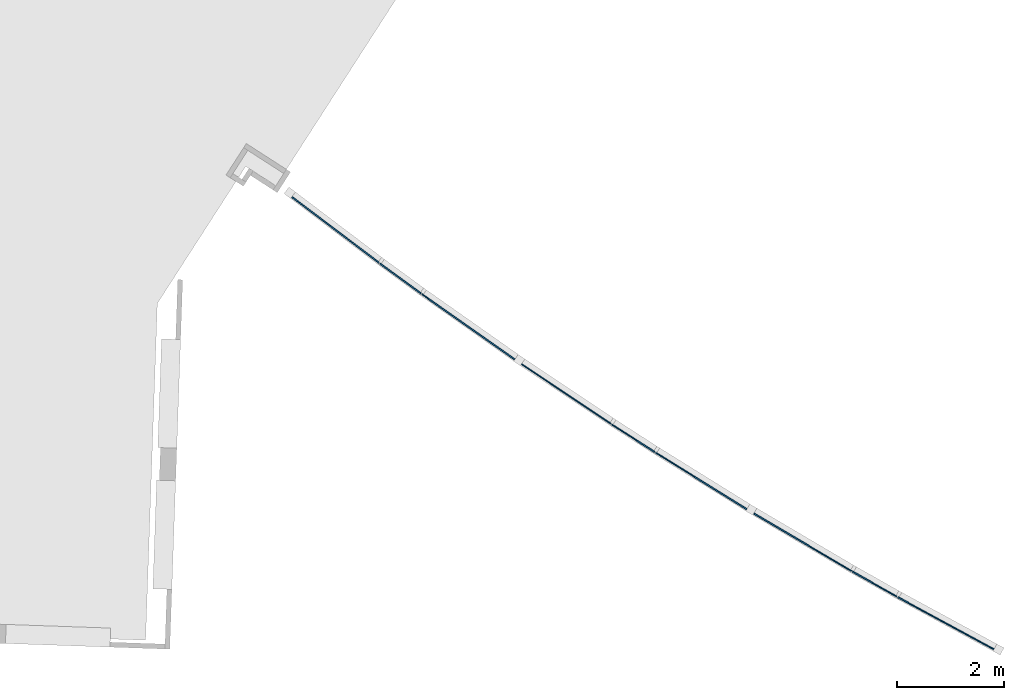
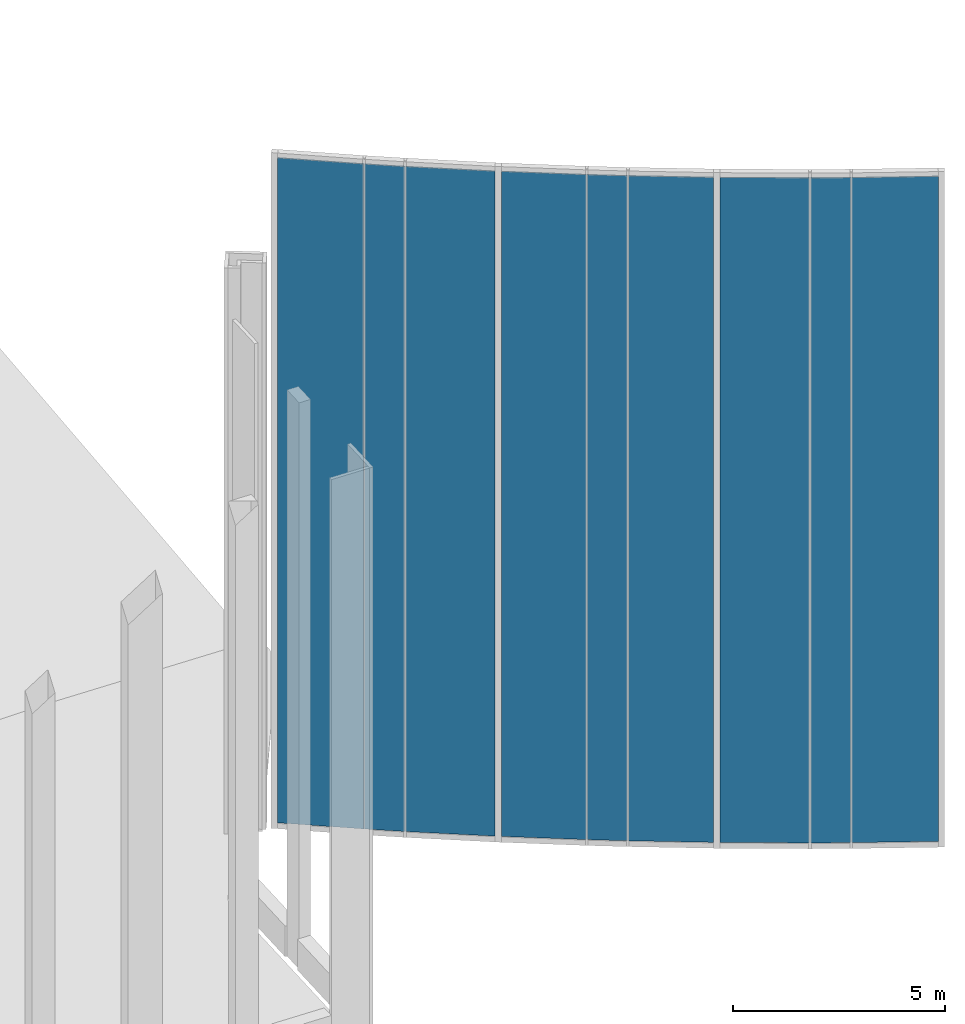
# One storey, part 7 of 17: 9 plates, 1 element without a shape of its own.
"""IFC2X3 building model written with IfcOpenShell, lengths in feet."""

from ifc_helpers import new_model, entity, si_unit, converted_unit, derived_unit, direction, frame, frame_2d, origin, place, context, subcontext, project, spatial, rectangle, extrude, source, transform, mapped, material, type_object, type_shapes, element, aggregate, save


model = new_model("IFC2X3")

# Units and contexts
model_context = context("Model", 3, precision=0.0001, world=origin(), true_north=direction((0.999390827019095, 0.0348994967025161)))
body_context = subcontext(model_context, "Body", "Model", "MODEL_VIEW")
ifc_project = project(units=[converted_unit("LENGTHUNIT", "FOOT", entity("IfcRatioMeasure", 0.3048), si_unit("LENGTHUNIT", "METRE"), dimensions=[1, 0, 0, 0, 0, 0, 0]), converted_unit("AREAUNIT", "SQUARE FOOT", entity("IfcRatioMeasure", 0.09290304), si_unit("AREAUNIT", "SQUARE_METRE"), dimensions=[2, 0, 0, 0, 0, 0, 0]), converted_unit("VOLUMEUNIT", "CUBIC FOOT", entity("IfcRatioMeasure", 0.028316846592), si_unit("VOLUMEUNIT", "CUBIC_METRE"), dimensions=[3, 0, 0, 0, 0, 0, 0]), converted_unit("PLANEANGLEUNIT", "DEGREE", entity("IfcRatioMeasure", 0.0174532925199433), si_unit("PLANEANGLEUNIT", "RADIAN"), dimensions=[0, 0, 0, 0, 0, 0, 0]), si_unit("MASSUNIT", "GRAM", prefix="KILO"), si_unit("TIMEUNIT", "SECOND"), si_unit("FREQUENCYUNIT", "HERTZ"), si_unit("THERMODYNAMICTEMPERATUREUNIT", "DEGREE_CELSIUS"), derived_unit("THERMALTRANSMITTANCEUNIT", [(si_unit("MASSUNIT", "GRAM", prefix="KILO"), 1), (si_unit("THERMODYNAMICTEMPERATUREUNIT", "KELVIN"), -1), (si_unit("TIMEUNIT", "SECOND"), -3)]), derived_unit("VOLUMETRICFLOWRATEUNIT", [(si_unit("LENGTHUNIT", "METRE"), 3), (si_unit("TIMEUNIT", "SECOND"), -1)]), si_unit("ELECTRICCURRENTUNIT", "AMPERE"), si_unit("ELECTRICVOLTAGEUNIT", "VOLT"), si_unit("POWERUNIT", "WATT"), si_unit("FORCEUNIT", "NEWTON"), si_unit("ILLUMINANCEUNIT", "LUX"), si_unit("LUMINOUSFLUXUNIT", "LUMEN"), si_unit("LUMINOUSINTENSITYUNIT", "CANDELA"), derived_unit("USERDEFINED", [(si_unit("MASSUNIT", "GRAM", prefix="KILO"), -1), (si_unit("LENGTHUNIT", "METRE"), -2), (si_unit("TIMEUNIT", "SECOND"), 3), (si_unit("LUMINOUSFLUXUNIT", "LUMEN"), 1)]), derived_unit("LINEARVELOCITYUNIT", [(si_unit("LENGTHUNIT", "METRE"), 1), (si_unit("TIMEUNIT", "SECOND"), -1)]), si_unit("PRESSUREUNIT", "PASCAL"), derived_unit("USERDEFINED", [(si_unit("LENGTHUNIT", "METRE"), -2), (si_unit("MASSUNIT", "GRAM", prefix="KILO"), 1), (si_unit("TIMEUNIT", "SECOND"), -2)])], contexts=[model_context])

# Site, building, storey
site_placement = place(None, frame((892.518771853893, 322.38689265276, 0.00393700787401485), z_axis=(0.0, 0.0, 1.0), x_axis=(0.0348994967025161, 0.999390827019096, 0.0)))
site = spatial("IfcSite", under=ifc_project, at=site_placement, Name="Default", CompositionType="ELEMENT")
building_placement = place(site_placement, origin())
building = spatial("IfcBuilding", under=site, at=building_placement, CompositionType="ELEMENT")
storey_placement = place(building_placement, frame((0.0, 0.0, 557.0)))
storey = spatial("IfcBuildingStorey", under=building, at=storey_placement, Name="Existing Garage - 1st Level", CompositionType="ELEMENT", Elevation=557.0)

# Curtain wall, plates
curtain_wall_type = type_object("IfcCurtainWallType", Name="Curtain Wall:(Existing) Curtainwall - Blank", PredefinedType="NOTDEFINED")
curtain_wall_placement = place(storey_placement, frame((0.0, 0.0, -557.0)))
curtain_wall = element("IfcCurtainWall", 1, at=curtain_wall_placement, inside=storey, type_object=curtain_wall_type, Name="Curtain Wall:(Existing) Curtainwall - Blank", ObjectType="Curtain Wall:(Existing) Curtainwall - Blank")
ifc_material = material(Name="Glazing - Core & Shell Curtain Wall")
plate_type_1 = type_object("IfcPlateType", Name="1\" Insulated Clear Glass", PredefinedType="CURTAIN_PANEL", material=ifc_material)
shared_shape_1 = source(origin(), body_context, "Body", "SweptSolid", [
    extrude(rectangle(XDim=0.0833333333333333, YDim=6.71319995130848, at=frame_2d((0.0, 2.66453525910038e-15), x_axis=(1.0, 0.0))), frame((0.0, 0.0, 0.0), z_axis=(0.0, 0.0, 1.0), x_axis=(0.0, 1.0, 0.0)), (0.0, 0.0, 1.0), 62.8958333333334),
])
type_shapes(plate_type_1, [shared_shape_1])
plate_1_placement = place(curtain_wall_placement, frame((-165.187718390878, 244.008889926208, 557.5), z_axis=(0.0, 0.0, 1.0), x_axis=(-0.575109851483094, -0.818076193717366, 0.0)))
plate_1 = element("IfcPlate", 2, at=plate_1_placement, type_object=plate_type_1, material=ifc_material, Name="System Panel:1\" Insulated Clear Glass", ObjectType="1\" Insulated Clear Glass", context=body_context, shape_type="MappedRepresentation", body=[
    mapped(shared_shape_1, transform((0.0, 0.0, 0.0), scale=1.0)),
])
plate_type_2 = type_object("IfcPlateType", Name="1\" Insulated Clear Glass", PredefinedType="CURTAIN_PANEL", material=ifc_material)
shared_shape_2 = source(origin(), body_context, "Body", "SweptSolid", [
    extrude(rectangle(XDim=0.0833333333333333, YDim=3.14518157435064, at=frame_2d((0.0, -9.10382880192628e-15), x_axis=(1.0, 0.0))), frame((0.0, 0.0, 0.0), z_axis=(0.0, 0.0, 1.0), x_axis=(0.0, 1.0, 0.0)), (0.0, 0.0, 1.0), 62.8958333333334),
])
type_shapes(plate_type_2, [shared_shape_2])
plate_2_placement = place(curtain_wall_placement, frame((-168.029575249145, 239.918009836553, 557.5), z_axis=(0.0, 0.0, 1.0), x_axis=(-0.560770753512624, -0.827971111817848, 0.0)))
plate_2 = element("IfcPlate", 3, at=plate_2_placement, type_object=plate_type_2, material=ifc_material, Name="System Panel:1\" Insulated Clear Glass", ObjectType="1\" Insulated Clear Glass", context=body_context, shape_type="MappedRepresentation", body=[
    mapped(shared_shape_2, transform((0.0, 0.0, 0.0), scale=1.0)),
])
plate_type_3 = type_object("IfcPlateType", Name="1\" Insulated Clear Glass", PredefinedType="CURTAIN_PANEL", material=ifc_material)
shared_shape_3 = source(origin(), body_context, "Body", "SweptSolid", [
    extrude(rectangle(XDim=0.0833333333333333, YDim=6.96236532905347, at=frame_2d((0.0, 7.99360577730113e-15), x_axis=(1.0, 0.0))), frame((0.0, 0.0, 0.0), z_axis=(0.0, 0.0, 1.0), x_axis=(0.0, 1.0, 0.0)), (0.0, 0.0, 1.0), 62.8958333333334),
])
type_shapes(plate_type_3, [shared_shape_3])
plate_3_placement = place(curtain_wall_placement, frame((-170.84190711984, 235.656688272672, 557.5), z_axis=(0.0, 0.0, 1.0), x_axis=(-0.546262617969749, -0.837613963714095, 0.0)))
plate_3 = element("IfcPlate", 4, at=plate_3_placement, type_object=plate_type_3, material=ifc_material, Name="System Panel:1\" Insulated Clear Glass", ObjectType="1\" Insulated Clear Glass", context=body_context, shape_type="MappedRepresentation", body=[
    mapped(shared_shape_3, transform((0.0, 0.0, 0.0), scale=1.0)),
])
plate_type_4 = type_object("IfcPlateType", Name="1\" Insulated Clear Glass", PredefinedType="CURTAIN_PANEL", material=ifc_material)
shared_shape_4 = source(origin(), body_context, "Body", "SweptSolid", [
    extrude(rectangle(XDim=0.0833333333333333, YDim=6.5940670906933, at=frame_2d((0.0, 1.02140518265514e-14), x_axis=(1.0, 0.0))), frame((0.0, 0.0, 0.0), z_axis=(0.0, 0.0, 1.0), x_axis=(0.0, 1.0, 0.0)), (0.0, 0.0, 1.0), 62.8958333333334),
])
type_shapes(plate_type_4, [shared_shape_4])
plate_4_placement = place(curtain_wall_placement, frame((-174.747219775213, 229.515546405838, 557.5), z_axis=(0.0, 0.0, 1.0), x_axis=(-0.526385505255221, -0.85024602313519, 0.0)))
plate_4 = element("IfcPlate", 5, at=plate_4_placement, type_object=plate_type_4, material=ifc_material, Name="System Panel:1\" Insulated Clear Glass", ObjectType="1\" Insulated Clear Glass", context=body_context, shape_type="MappedRepresentation", body=[
    mapped(shared_shape_4, transform((0.0, 0.0, 0.0), scale=1.0)),
])
plate_type_5 = type_object("IfcPlateType", Name="1\" Insulated Clear Glass", PredefinedType="CURTAIN_PANEL", material=ifc_material)
shared_shape_5 = source(origin(), body_context, "Body", "SweptSolid", [
    extrude(rectangle(XDim=0.0833333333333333, YDim=3.14529756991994, at=frame_2d((0.0, 8.88178419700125e-16), x_axis=(1.0, 0.0))), frame((0.0, 0.0, 0.0), z_axis=(0.0, 0.0, 1.0), x_axis=(0.0, 1.0, 0.0)), (0.0, 0.0, 1.0), 62.8958333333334),
])
type_shapes(plate_type_5, [shared_shape_5])
plate_5_placement = place(curtain_wall_placement, frame((-177.315004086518, 225.316884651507, 557.5), z_axis=(0.0, 0.0, 1.0), x_axis=(-0.512022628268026, -0.858971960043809, 0.0)))
plate_5 = element("IfcPlate", 6, at=plate_5_placement, type_object=plate_type_5, material=ifc_material, Name="System Panel:1\" Insulated Clear Glass", ObjectType="1\" Insulated Clear Glass", context=body_context, shape_type="MappedRepresentation", body=[
    mapped(shared_shape_5, transform((0.0, 0.0, 0.0), scale=1.0)),
])
plate_type_6 = type_object("IfcPlateType", Name="1\" Insulated Clear Glass", PredefinedType="CURTAIN_PANEL", material=ifc_material)
shared_shape_6 = source(origin(), body_context, "Body", "SweptSolid", [
    extrude(rectangle(XDim=0.0833333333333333, YDim=6.59396831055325, at=frame_2d((0.0, -7.54951656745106e-15), x_axis=(1.0, 0.0))), frame((0.0, 0.0, 0.0), z_axis=(0.0, 0.0, 1.0), x_axis=(0.0, 1.0, 0.0)), (0.0, 0.0, 1.0), 62.8958333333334),
])
type_shapes(plate_type_6, [shared_shape_6])
plate_6_placement = place(curtain_wall_placement, frame((-179.786825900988, 221.061078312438, 557.5), z_axis=(0.0, 0.0, 1.0), x_axis=(-0.497515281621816, -0.867455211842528, 0.0)))
plate_6 = element("IfcPlate", 7, at=plate_6_placement, type_object=plate_type_6, material=ifc_material, Name="System Panel:1\" Insulated Clear Glass", ObjectType="1\" Insulated Clear Glass", context=body_context, shape_type="MappedRepresentation", body=[
    mapped(shared_shape_6, transform((0.0, 0.0, 0.0), scale=1.0)),
])
plate_type_7 = type_object("IfcPlateType", Name="1\" Insulated Clear Glass", PredefinedType="CURTAIN_PANEL", material=ifc_material)
shared_shape_7 = source(origin(), body_context, "Body", "SweptSolid", [
    extrude(rectangle(XDim=0.0833333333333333, YDim=6.96292127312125, at=frame_2d((0.0, 2.66453525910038e-15), x_axis=(1.0, 0.0))), frame((0.0, 0.0, 0.0), z_axis=(0.0, 0.0, 1.0), x_axis=(0.0, 1.0, 0.0)), (0.0, 0.0, 1.0), 62.8958333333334),
])
type_shapes(plate_type_7, [shared_shape_7])
plate_7_placement = place(curtain_wall_placement, frame((-183.331218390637, 214.704530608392, 557.5), z_axis=(0.0, 0.0, 1.0), x_axis=(-0.47694826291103, -0.878931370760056, 0.0)))
plate_7 = element("IfcPlate", 8, at=plate_7_placement, type_object=plate_type_7, material=ifc_material, Name="System Panel:1\" Insulated Clear Glass", ObjectType="1\" Insulated Clear Glass", context=body_context, shape_type="MappedRepresentation", body=[
    mapped(shared_shape_7, transform((0.0, 0.0, 0.0), scale=1.0)),
])
plate_type_8 = type_object("IfcPlateType", Name="1\" Insulated Clear Glass", PredefinedType="CURTAIN_PANEL", material=ifc_material)
shared_shape_8 = source(origin(), body_context, "Body", "SweptSolid", [
    extrude(rectangle(XDim=0.0833333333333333, YDim=3.14527898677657, at=frame_2d((0.0, 3.10862446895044e-15), x_axis=(1.0, 0.0))), frame((0.0, 0.0, 0.0), z_axis=(0.0, 0.0, 1.0), x_axis=(0.0, 1.0, 0.0)), (0.0, 0.0, 1.0), 62.8958333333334),
])
type_shapes(plate_type_8, [shared_shape_8])
plate_8_placement = place(curtain_wall_placement, frame((-185.742009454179, 210.203475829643, 557.5), z_axis=(0.0, 0.0, 1.0), x_axis=(-0.461564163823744, -0.887106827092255, 0.0)))
plate_8 = element("IfcPlate", 9, at=plate_8_placement, type_object=plate_type_8, material=ifc_material, Name="System Panel:1\" Insulated Clear Glass", ObjectType="1\" Insulated Clear Glass", context=body_context, shape_type="MappedRepresentation", body=[
    mapped(shared_shape_8, transform((0.0, 0.0, 0.0), scale=1.0)),
])
plate_type_9 = type_object("IfcPlateType", Name="1\" Insulated Clear Glass", PredefinedType="CURTAIN_PANEL", material=ifc_material)
shared_shape_9 = source(origin(), body_context, "Body", "SweptSolid", [
    extrude(rectangle(XDim=0.0833333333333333, YDim=6.71316972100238, at=frame_2d((0.0, -5.77315972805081e-15), x_axis=(1.0, 0.0))), frame((0.0, 0.0, 0.0), z_axis=(0.0, 0.0, 1.0), x_axis=(0.0, 1.0, 0.0)), (0.0, 0.0, 1.0), 62.8958333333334),
])
type_shapes(plate_type_9, [shared_shape_9])
plate_9_placement = place(curtain_wall_placement, frame((-187.988688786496, 205.757779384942, 557.5), z_axis=(0.0, 0.0, 1.0), x_axis=(-0.446039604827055, -0.895013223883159, 0.0)))
plate_9 = element("IfcPlate", 10, at=plate_9_placement, type_object=plate_type_9, material=ifc_material, Name="System Panel:1\" Insulated Clear Glass", ObjectType="1\" Insulated Clear Glass", context=body_context, shape_type="MappedRepresentation", body=[
    mapped(shared_shape_9, transform((0.0, 0.0, 0.0), scale=1.0)),
])
aggregate(curtain_wall, [plate_1, plate_2, plate_3, plate_4, plate_5, plate_6, plate_7, plate_8, plate_9])

save(model, "model.ifc")
